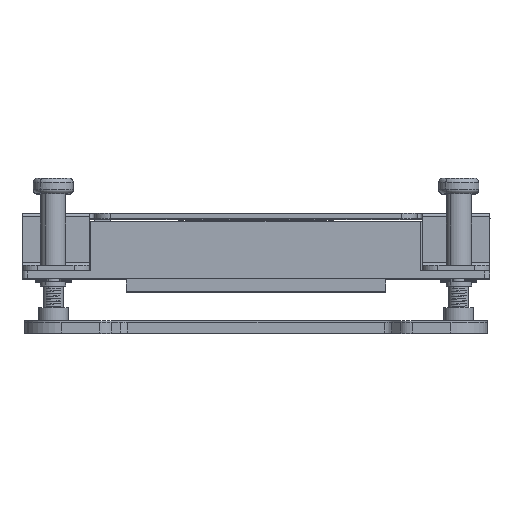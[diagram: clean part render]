
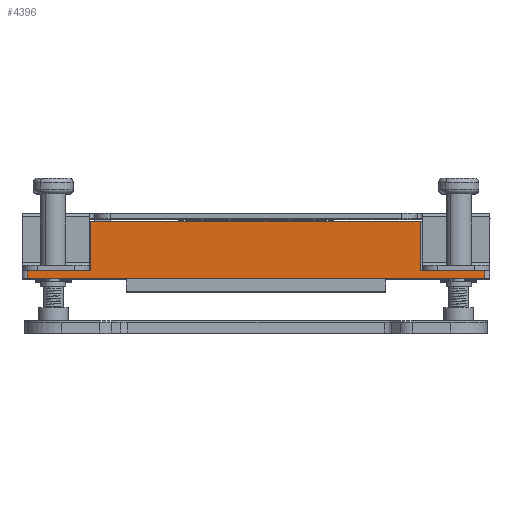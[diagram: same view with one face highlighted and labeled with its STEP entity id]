
A CAD part, top view. The second image highlights one B-rep face of the part: STEP entity #4396.
In plain terms, the highlighted planar face has unit normal (0, 0, 1).
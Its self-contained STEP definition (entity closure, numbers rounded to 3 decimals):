
#3063=DIRECTION('',(1.,0.,0.));
#3064=VECTOR('',#3063,88.);
#3065=CARTESIAN_POINT('',(-44.,0.,45.));
#3066=LINE('',#3065,#3064);
#3418=DIRECTION('',(1.,0.,0.));
#3419=VECTOR('',#3418,12.2);
#3420=CARTESIAN_POINT('',(-44.,1.5,45.));
#3421=LINE('',#3420,#3419);
#3422=DIRECTION('',(0.,-1.,0.));
#3423=VECTOR('',#3422,9.5);
#3424=CARTESIAN_POINT('',(31.6,11.,45.));
#3425=LINE('',#3424,#3423);
#3426=DIRECTION('',(1.,0.,0.));
#3427=VECTOR('',#3426,12.4);
#3428=CARTESIAN_POINT('',(31.6,1.5,45.));
#3429=LINE('',#3428,#3427);
#3479=DIRECTION('',(-1.,0.,0.));
#3480=VECTOR('',#3479,63.4);
#3481=CARTESIAN_POINT('',(31.6,11.,45.));
#3482=LINE('',#3481,#3480);
#3519=DIRECTION('',(0.,-1.,0.));
#3520=VECTOR('',#3519,9.5);
#3521=CARTESIAN_POINT('',(-31.8,11.,45.));
#3522=LINE('',#3521,#3520);
#3578=DIRECTION('',(0.,-1.,0.));
#3579=VECTOR('',#3578,1.5);
#3580=CARTESIAN_POINT('',(-44.,1.5,45.));
#3581=LINE('',#3580,#3579);
#3598=DIRECTION('',(0.,1.,0.));
#3599=VECTOR('',#3598,1.5);
#3600=CARTESIAN_POINT('',(44.,0.,45.));
#3601=LINE('',#3600,#3599);
#3828=CARTESIAN_POINT('',(-44.,0.,45.));
#3829=VERTEX_POINT('',#3828);
#3830=CARTESIAN_POINT('',(44.,0.,45.));
#3831=VERTEX_POINT('',#3830);
#3973=CARTESIAN_POINT('',(31.6,1.5,45.));
#3975=VERTEX_POINT('',#3973);
#3976=CARTESIAN_POINT('',(44.,1.5,45.));
#3977=VERTEX_POINT('',#3976);
#3986=CARTESIAN_POINT('',(31.6,11.,45.));
#3987=VERTEX_POINT('',#3986);
#3990=CARTESIAN_POINT('',(-44.,1.5,45.));
#3991=CARTESIAN_POINT('',(-31.8,1.5,45.));
#3992=VERTEX_POINT('',#3990);
#3993=VERTEX_POINT('',#3991);
#3994=CARTESIAN_POINT('',(-31.8,11.,45.));
#3995=VERTEX_POINT('',#3994);
#4376=CARTESIAN_POINT('',(45.,1.5,45.));
#4377=DIRECTION('',(0.,0.,-1.));
#4378=DIRECTION('',(-1.,0.,0.));
#4379=AXIS2_PLACEMENT_3D('',#4376,#4377,#4378);
#4380=PLANE('',#4379);
#4382=ORIENTED_EDGE('',*,*,#4381,.T.);
#4384=ORIENTED_EDGE('',*,*,#4383,.F.);
#4386=ORIENTED_EDGE('',*,*,#4385,.F.);
#4387=ORIENTED_EDGE('',*,*,#4367,.T.);
#4388=ORIENTED_EDGE('',*,*,#4346,.T.);
#4390=ORIENTED_EDGE('',*,*,#4389,.F.);
#4391=ORIENTED_EDGE('',*,*,#4069,.F.);
#4393=ORIENTED_EDGE('',*,*,#4392,.F.);
#4394=EDGE_LOOP('',(#4382,#4384,#4386,#4387,#4388,#4390,#4391,#4393));
#4395=FACE_OUTER_BOUND('',#4394,.F.);
#4396=ADVANCED_FACE('',(#4395),#4380,.F.);
#4069=EDGE_CURVE('',#3829,#3831,#3066,.T.);
#4346=EDGE_CURVE('',#3975,#3977,#3429,.T.);
#4367=EDGE_CURVE('',#3987,#3975,#3425,.T.);
#4381=EDGE_CURVE('',#3992,#3993,#3421,.T.);
#4383=EDGE_CURVE('',#3995,#3993,#3522,.T.);
#4385=EDGE_CURVE('',#3987,#3995,#3482,.T.);
#4389=EDGE_CURVE('',#3831,#3977,#3601,.T.);
#4392=EDGE_CURVE('',#3992,#3829,#3581,.T.);
